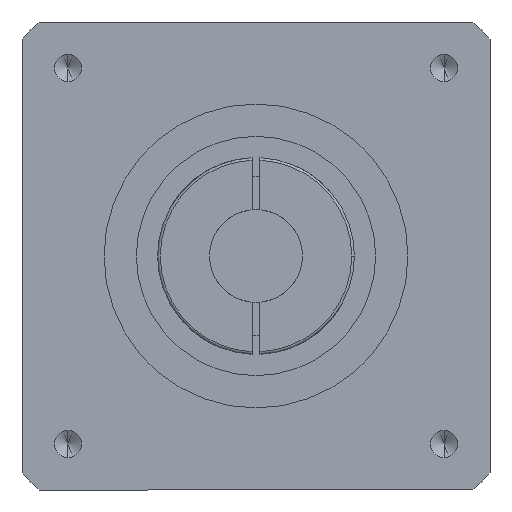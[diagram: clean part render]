
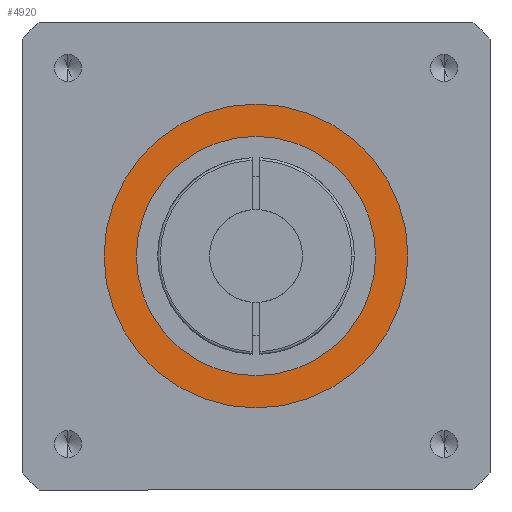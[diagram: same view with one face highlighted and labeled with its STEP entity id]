
A CAD part, front view. The second image highlights one B-rep face of the part: STEP entity #4920.
In plain terms, the highlighted planar face has unit normal (0, -1, 0).
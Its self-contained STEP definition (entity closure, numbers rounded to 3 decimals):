
#139 = CARTESIAN_POINT ( 'NONE',  ( 0., -137.5, 0. ) ) ;
#140 = DIRECTION ( 'NONE',  ( 0., -1., 0. ) ) ;
#141 = DIRECTION ( 'NONE',  ( 0., 0., -1. ) ) ;
#425 = CARTESIAN_POINT ( 'NONE',  ( 0., -137.5, 0. ) ) ;
#426 = DIRECTION ( 'NONE',  ( 0., -1., 0. ) ) ;
#427 = DIRECTION ( 'NONE',  ( 0., 0., -1. ) ) ;
#439 = CARTESIAN_POINT ( 'NONE',  ( 0., -137.5, 0. ) ) ;
#440 = DIRECTION ( 'NONE',  ( 0., -1., 0. ) ) ;
#441 = DIRECTION ( 'NONE',  ( 0., 0., -1. ) ) ;
#630 = ORIENTED_EDGE ( 'NONE', *, *, #4647, .F. ) ;
#631 = ORIENTED_EDGE ( 'NONE', *, *, #4569, .T. ) ;
#636 = ORIENTED_EDGE ( 'NONE', *, *, #4459, .T. ) ;
#639 = ORIENTED_EDGE ( 'NONE', *, *, #4454, .F. ) ;
#656 = CARTESIAN_POINT ( 'NONE',  ( 0., -137.5, -45. ) ) ;
#674 = CARTESIAN_POINT ( 'NONE',  ( 0., -137.5, 57.15 ) ) ;
#774 = AXIS2_PLACEMENT_3D ( 'NONE', #425, #426, #427 ) ;
#777 = AXIS2_PLACEMENT_3D ( 'NONE', #439, #440, #441 ) ;
#801 = AXIS2_PLACEMENT_3D ( 'NONE', #139, #140, #141 ) ;
#822 = AXIS2_PLACEMENT_3D ( 'NONE', #4020, #4021, #4022 ) ;
#936 = VERTEX_POINT ( 'NONE', #656 ) ;
#957 = VERTEX_POINT ( 'NONE', #674 ) ;
#1231 = VERTEX_POINT ( 'NONE', #5079 ) ;
#1280 = VERTEX_POINT ( 'NONE', #5102 ) ;
#1437 = CIRCLE ( 'NONE', #774, 45. ) ;
#1459 = CIRCLE ( 'NONE', #777, 57.15 ) ;
#1533 = CIRCLE ( 'NONE', #801, 57.15 ) ;
#1591 = CIRCLE ( 'NONE', #822, 45. ) ;
#1837 = FACE_BOUND ( 'NONE', #3533, .T. ) ;
#1851 = FACE_OUTER_BOUND ( 'NONE', #3531, .T. ) ;
#2166 = PLANE ( 'NONE',  #4365 ) ;
#2168 = CARTESIAN_POINT ( 'NONE',  ( 0., -137.5, 0. ) ) ;
#2173 = DIRECTION ( 'NONE',  ( 0., -1., 0. ) ) ;
#2174 = DIRECTION ( 'NONE',  ( 0., 0., -1. ) ) ;
#3531 = EDGE_LOOP ( 'NONE', ( #631, #636 ) ) ;
#3533 = EDGE_LOOP ( 'NONE', ( #630, #639 ) ) ;
#4020 = CARTESIAN_POINT ( 'NONE',  ( 0., -137.5, 0. ) ) ;
#4021 = DIRECTION ( 'NONE',  ( 0., -1., 0. ) ) ;
#4022 = DIRECTION ( 'NONE',  ( 0., 0., -1. ) ) ;
#4365 = AXIS2_PLACEMENT_3D ( 'NONE', #2168, #2173, #2174 ) ;
#4454 = EDGE_CURVE ( 'NONE', #1231, #936, #1437, .T. ) ;
#4459 = EDGE_CURVE ( 'NONE', #957, #1280, #1459, .T. ) ;
#4569 = EDGE_CURVE ( 'NONE', #1280, #957, #1533, .T. ) ;
#4647 = EDGE_CURVE ( 'NONE', #936, #1231, #1591, .T. ) ;
#4920 = ADVANCED_FACE ( 'NONE', ( #1837, #1851 ), #2166, .T. ) ;
#5079 = CARTESIAN_POINT ( 'NONE',  ( 0., -137.5, 45. ) ) ;
#5102 = CARTESIAN_POINT ( 'NONE',  ( 0., -137.5, -57.15 ) ) ;
